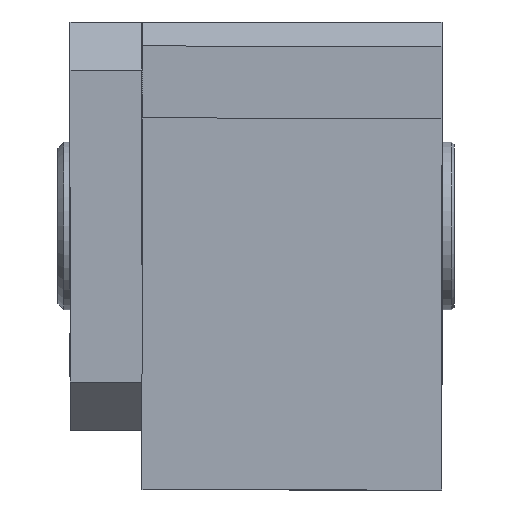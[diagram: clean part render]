
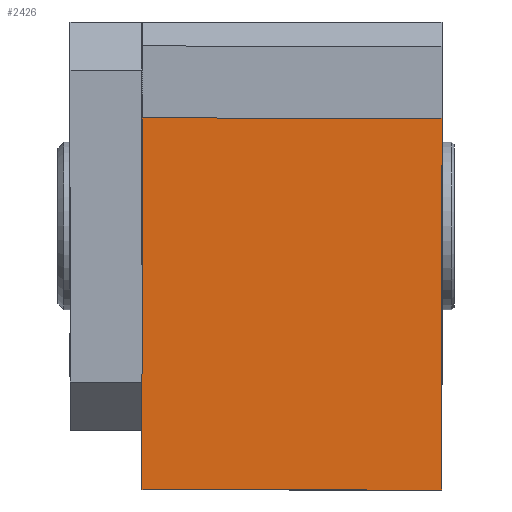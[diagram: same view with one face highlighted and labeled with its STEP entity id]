
A CAD part, left-side view. The second image highlights one B-rep face of the part: STEP entity #2426.
In plain terms, the highlighted planar face has unit normal (-1, 0, 0).
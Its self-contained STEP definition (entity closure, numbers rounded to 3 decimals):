
#260=PLANE('',#2782);
#372=FACE_OUTER_BOUND('',#563,.T.);
#563=EDGE_LOOP('',(#2138,#2139,#2140,#2141));
#654=LINE('',#3794,#802);
#685=LINE('',#4107,#833);
#707=LINE('',#4392,#855);
#725=LINE('',#4829,#873);
#802=VECTOR('',#3064,10.);
#833=VECTOR('',#3201,10.);
#855=VECTOR('',#3317,10.);
#873=VECTOR('',#3407,10.);
#1111=VERTEX_POINT('',#3791);
#1112=VERTEX_POINT('',#3793);
#1164=VERTEX_POINT('',#4104);
#1165=VERTEX_POINT('',#4106);
#1369=EDGE_CURVE('',#1112,#1111,#654,.T.);
#1439=EDGE_CURVE('',#1164,#1165,#685,.T.);
#1498=EDGE_CURVE('',#1112,#1164,#707,.T.);
#1547=EDGE_CURVE('',#1111,#1165,#725,.T.);
#2138=ORIENTED_EDGE('',*,*,#1369,.T.);
#2139=ORIENTED_EDGE('',*,*,#1547,.T.);
#2140=ORIENTED_EDGE('',*,*,#1439,.F.);
#2141=ORIENTED_EDGE('',*,*,#1498,.F.);
#2426=ADVANCED_FACE('',(#372),#260,.T.);
#2782=AXIS2_PLACEMENT_3D('',#4830,#3408,#3409);
#3064=DIRECTION('',(0.,-1.,0.));
#3201=DIRECTION('',(0.,-1.,0.));
#3317=DIRECTION('',(0.,0.,1.));
#3407=DIRECTION('',(0.,0.,1.));
#3408=DIRECTION('center_axis',(-1.,0.,0.));
#3409=DIRECTION('ref_axis',(0.,-1.,0.));
#3791=CARTESIAN_POINT('',(-30.,0.,0.));
#3793=CARTESIAN_POINT('',(-30.,31.,0.));
#3794=CARTESIAN_POINT('',(-30.,31.,0.));
#4104=CARTESIAN_POINT('',(-30.,31.,25.));
#4106=CARTESIAN_POINT('',(-30.,0.,25.));
#4107=CARTESIAN_POINT('',(-30.,31.,25.));
#4392=CARTESIAN_POINT('',(-30.,31.,0.));
#4829=CARTESIAN_POINT('',(-30.,0.,0.));
#4830=CARTESIAN_POINT('Origin',(-30.,31.,0.));
